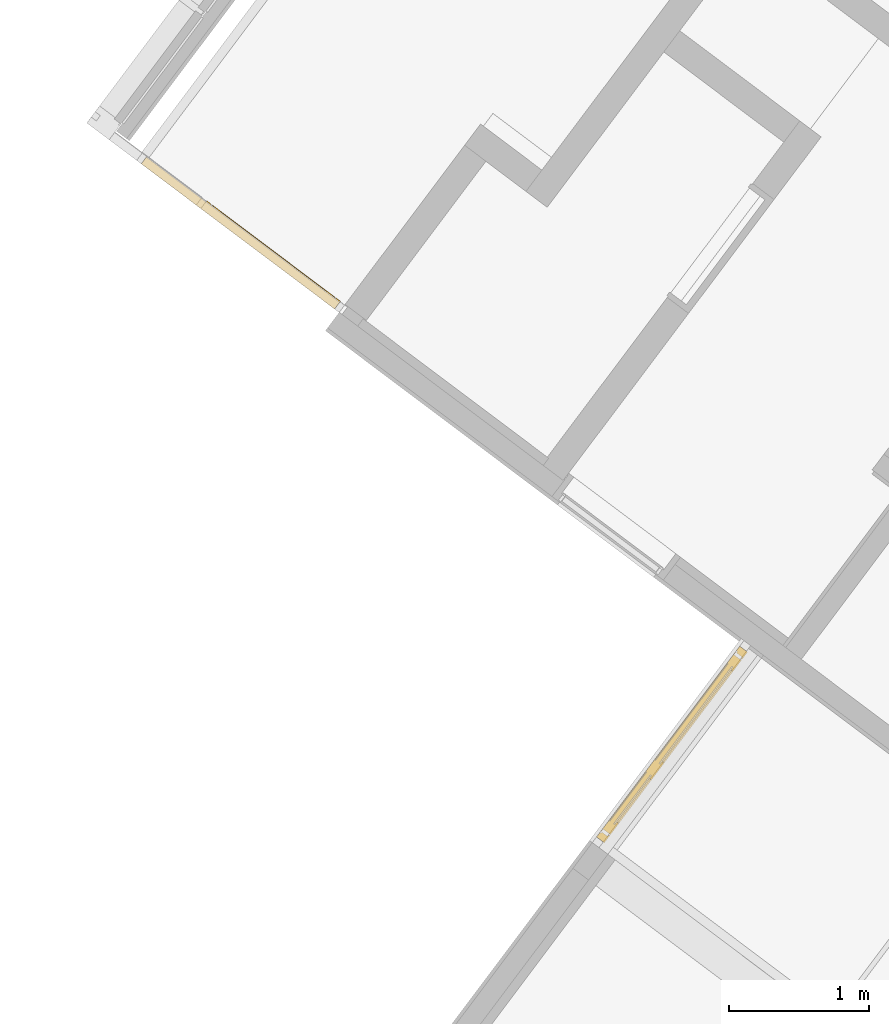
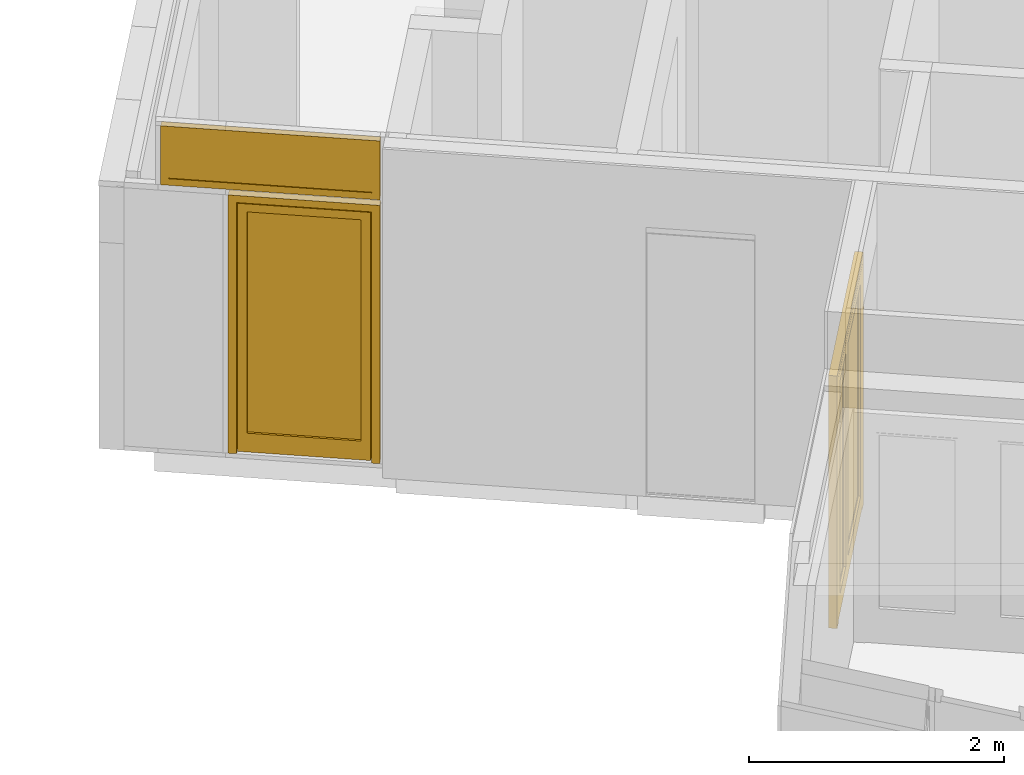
# One storey, part 223 of 243: 2 doors, 1 window, 2 elements without a shape of their own.
"""IFC2X3 building model written with IfcOpenShell, lengths in metres."""

from ifc_helpers import new_model, entity, si_unit, converted_unit, derived_unit, direction, frame, origin, place, context, subcontext, project, spatial, faceted_brep, source, transform, mapped, material, material_list, type_object, type_shapes, element, aggregate, save


model = new_model("IFC2X3")

# Units and contexts
model_context = context("Model", 3, precision=1e-05, world=origin(), true_north=direction((6.123031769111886e-17, 1.0)))
body_context = subcontext(model_context, "Body", "Model", "MODEL_VIEW")
ifc_project = project(units=[si_unit("LENGTHUNIT", "METRE"), si_unit("AREAUNIT", "SQUARE_METRE"), si_unit("VOLUMEUNIT", "CUBIC_METRE"), converted_unit("PLANEANGLEUNIT", "DEGREE", entity("IfcRatioMeasure", 0.017453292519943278), si_unit("PLANEANGLEUNIT", "RADIAN"), dimensions=[0, 0, 0, 0, 0, 0, 0]), si_unit("MASSUNIT", "GRAM", prefix="KILO"), derived_unit("MASSDENSITYUNIT", [(si_unit("MASSUNIT", "GRAM", prefix="KILO"), 1), (si_unit("LENGTHUNIT", "METRE"), -3)]), derived_unit("IONCONCENTRATIONUNIT", [(si_unit("MASSUNIT", "GRAM", prefix="KILO"), 1), (si_unit("LENGTHUNIT", "METRE"), -3)]), derived_unit("MOMENTOFINERTIAUNIT", [(si_unit("LENGTHUNIT", "METRE"), 4)]), si_unit("TIMEUNIT", "SECOND"), si_unit("FREQUENCYUNIT", "HERTZ"), si_unit("THERMODYNAMICTEMPERATUREUNIT", "DEGREE_CELSIUS"), derived_unit("THERMALTRANSMITTANCEUNIT", [(si_unit("MASSUNIT", "GRAM", prefix="KILO"), 1), (si_unit("THERMODYNAMICTEMPERATUREUNIT", "KELVIN"), -1), (si_unit("TIMEUNIT", "SECOND"), -3)]), derived_unit("THERMALCONDUCTANCEUNIT", [(si_unit("MASSUNIT", "GRAM", prefix="KILO"), 1), (si_unit("THERMODYNAMICTEMPERATUREUNIT", "KELVIN"), -1), (si_unit("TIMEUNIT", "SECOND"), -3), (si_unit("LENGTHUNIT", "METRE"), 1)]), derived_unit("VOLUMETRICFLOWRATEUNIT", [(si_unit("LENGTHUNIT", "METRE"), 3), (si_unit("TIMEUNIT", "SECOND"), -1)]), derived_unit("MASSFLOWRATEUNIT", [(si_unit("MASSUNIT", "GRAM", prefix="KILO"), 1), (si_unit("TIMEUNIT", "SECOND"), -1)]), derived_unit("ROTATIONALFREQUENCYUNIT", [(si_unit("TIMEUNIT", "SECOND"), -1)]), si_unit("ELECTRICCURRENTUNIT", "AMPERE"), si_unit("ELECTRICVOLTAGEUNIT", "VOLT"), si_unit("POWERUNIT", "WATT"), si_unit("FORCEUNIT", "NEWTON", prefix="KILO"), si_unit("ILLUMINANCEUNIT", "LUX"), si_unit("LUMINOUSFLUXUNIT", "LUMEN"), si_unit("LUMINOUSINTENSITYUNIT", "CANDELA"), derived_unit("USERDEFINED", [(si_unit("MASSUNIT", "GRAM", prefix="KILO"), -1), (si_unit("LENGTHUNIT", "METRE"), -2), (si_unit("TIMEUNIT", "SECOND"), 3), (si_unit("LUMINOUSFLUXUNIT", "LUMEN"), 1)]), derived_unit("USERDEFINED", [(si_unit("MASSUNIT", "GRAM", prefix="KILO"), 1), (si_unit("TIMEUNIT", "SECOND"), -3), (si_unit("LENGTHUNIT", "METRE"), 3), (si_unit("ELECTRICCURRENTUNIT", "AMPERE"), -2)]), derived_unit("SOUNDPOWERUNIT", [(si_unit("MASSUNIT", "GRAM", prefix="KILO"), 1), (si_unit("TIMEUNIT", "SECOND"), -3), (si_unit("LENGTHUNIT", "METRE"), 2)]), derived_unit("SOUNDPRESSUREUNIT", [(si_unit("MASSUNIT", "GRAM", prefix="KILO"), 1), (si_unit("LENGTHUNIT", "METRE"), -1), (si_unit("TIMEUNIT", "SECOND"), -2)]), derived_unit("LINEARVELOCITYUNIT", [(si_unit("LENGTHUNIT", "METRE"), 1), (si_unit("TIMEUNIT", "SECOND"), -1)]), si_unit("PRESSUREUNIT", "PASCAL"), derived_unit("USERDEFINED", [(si_unit("MASSUNIT", "GRAM", prefix="KILO"), 1), (si_unit("LENGTHUNIT", "METRE"), -2), (si_unit("TIMEUNIT", "SECOND"), -2)]), derived_unit("LINEARFORCEUNIT", [(si_unit("MASSUNIT", "GRAM", prefix="KILO"), 1), (si_unit("TIMEUNIT", "SECOND"), -2)]), derived_unit("PLANARFORCEUNIT", [(si_unit("MASSUNIT", "GRAM", prefix="KILO"), 1), (si_unit("LENGTHUNIT", "METRE"), -1), (si_unit("TIMEUNIT", "SECOND"), -2)]), derived_unit("SPECIFICHEATCAPACITYUNIT", [(si_unit("THERMODYNAMICTEMPERATUREUNIT", "KELVIN"), -1), (si_unit("LENGTHUNIT", "METRE"), 2), (si_unit("TIMEUNIT", "SECOND"), -2)]), derived_unit("HEATINGVALUEUNIT", [(si_unit("LENGTHUNIT", "METRE"), 2), (si_unit("TIMEUNIT", "SECOND"), -2)]), derived_unit("VAPORPERMEABILITYUNIT", [(si_unit("LENGTHUNIT", "METRE"), -1), (si_unit("TIMEUNIT", "SECOND"), 1)]), derived_unit("DYNAMICVISCOSITYUNIT", [(si_unit("MASSUNIT", "GRAM", prefix="KILO"), 1), (si_unit("TIMEUNIT", "SECOND"), -1), (si_unit("LENGTHUNIT", "METRE"), -1)]), derived_unit("THERMALEXPANSIONCOEFFICIENTUNIT", [(si_unit("THERMODYNAMICTEMPERATUREUNIT", "KELVIN"), -1)]), derived_unit("MODULUSOFELASTICITYUNIT", [(si_unit("MASSUNIT", "GRAM", prefix="KILO"), 1), (si_unit("LENGTHUNIT", "METRE"), -1), (si_unit("TIMEUNIT", "SECOND"), -2)]), derived_unit("ISOTHERMALMOISTURECAPACITYUNIT", [(si_unit("LENGTHUNIT", "METRE"), 3), (si_unit("MASSUNIT", "GRAM", prefix="KILO"), -1)]), derived_unit("MOISTUREDIFFUSIVITYUNIT", [(si_unit("TIMEUNIT", "SECOND"), -1), (si_unit("LENGTHUNIT", "METRE"), 2)])], contexts=[model_context])

# Site, building, storey
site_placement = place(None, frame((0.0, 0.0, 235.0), z_axis=(0.0, 0.0, 1.0), x_axis=(-0.7996477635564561, 0.6004693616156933, 0.0)))
site = spatial("IfcSite", under=ifc_project, at=site_placement, Name="Default", CompositionType="ELEMENT")
building_placement = place(site_placement, origin())
building = spatial("IfcBuilding", under=site, at=building_placement, CompositionType="ELEMENT")
storey_placement = place(building_placement, origin())
storey = spatial("IfcBuildingStorey", under=building, at=storey_placement, Name="P0- Escola", CompositionType="ELEMENT", Elevation=0.0)

# Curtain wall, door, window
curtain_wall_type_1 = type_object("IfcCurtainWallType", Name="Muro cortina:MC- EXT- AL1- Fa porxo", PredefinedType="NOTDEFINED")
curtain_wall_1_placement = place(storey_placement, origin())
curtain_wall_1 = element("IfcCurtainWall", 1, at=curtain_wall_1_placement, inside=storey, type_object=curtain_wall_type_1, Name="Muro cortina:MC- EXT- AL1- Fa porxo", ObjectType="Muro cortina:MC- EXT- AL1- Fa porxo")
ifc_material_1 = material(Name="_Alumini- T1- Perfil")
ifc_material_2 = material(Name="_Vidre")
ifc_material_list_1 = material_list([ifc_material_1, ifc_material_2])
door_style_1 = type_object("IfcDoorStyle", Name="MC- Alu- Conjunt porta- 70x60 cm- +15cm- obertura int:MC- Alu- Conjunt porta- 70x60 cm- +15cm- obertura int", ConstructionType="NOTDEFINED", OperationType="NOTDEFINED", ParameterTakesPrecedence=False, Sizeable=False, material=ifc_material_list_1)
shared_shape_1 = source(origin(), body_context, "Body", "Brep", [
    faceted_brep([(-0.5259499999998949, 0.0, 0.024000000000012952), (0.5259499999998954, 0.0, 0.024000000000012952), (0.5259499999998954, -0.06569970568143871, 0.024000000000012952), (-0.5259499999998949, -0.06569970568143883, 0.024000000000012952), (-0.5259499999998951, -0.06569970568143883, 2.397949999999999), (-0.5259499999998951, 0.0, 2.397949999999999), (0.5259499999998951, -0.06569970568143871, 2.397949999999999), (0.5499499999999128, -0.06569970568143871, 0.0), (-0.54994999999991, -0.06569970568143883, 0.0), (-0.5499499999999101, -0.06569970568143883, 2.421950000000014), (0.5499499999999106, -0.06569970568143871, 2.421950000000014), (0.5259499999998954, 0.0, 2.397949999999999), (-0.4493499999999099, 0.0, 2.3213500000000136), (-0.4493499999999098, 0.0, 0.20400000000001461), (0.4493499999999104, 0.0, 0.20400000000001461), (0.4493499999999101, 0.0, 2.3213500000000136), (0.5499499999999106, -0.0699997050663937, 2.421950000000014), (0.5499499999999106, -0.0699997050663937, 0.0), (-0.54994999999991, -0.06999970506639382, 0.0), (-0.5499499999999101, -0.06999970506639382, 2.421950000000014), (0.4493499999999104, -0.0699997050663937, 2.321350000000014), (0.4493499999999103, -0.0699997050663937, 0.20400000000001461), (-0.4493499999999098, -0.06999970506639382, 0.20400000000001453), (-0.4493499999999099, -0.06999970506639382, 2.3213500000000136), (0.4493499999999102, -0.06449970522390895, 2.3213500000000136), (0.4493499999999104, -0.06449970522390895, 0.20400000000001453), (-0.4493499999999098, -0.06449970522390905, 0.20400000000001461), (-0.4493499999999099, -0.06449970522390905, 2.3213500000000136), (0.4743500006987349, -0.06449970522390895, 2.3463500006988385), (0.4743500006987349, -0.06449970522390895, 0.17899999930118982), (-0.4743500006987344, -0.06449970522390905, 0.17899999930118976), (-0.4743500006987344, -0.06449970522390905, 2.346350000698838), (0.47435000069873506, -0.018999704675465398, 2.3463500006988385), (0.4743500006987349, -0.018999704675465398, 0.17899999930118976), (-0.4743500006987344, -0.0189997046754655, 0.17899999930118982), (-0.47435000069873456, -0.018999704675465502, 2.346350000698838), (0.4493499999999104, -0.018999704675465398, 2.321350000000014), (0.44934999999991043, -0.0189997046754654, 0.20400000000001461), (-0.4493499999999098, -0.0189997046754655, 0.20400000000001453), (-0.4493499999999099, -0.0189997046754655, 2.3213500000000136)], [[[0, 1, 2, 3]], [[4, 5, 0, 3]], [[2, 6, 4, 3], [7, 8, 9, 10]], [[2, 1, 11, 6]], [[11, 1, 0, 5], [12, 13, 14, 15]], [[16, 17, 7, 10]], [[8, 7, 17, 18]], [[18, 17, 16, 19], [20, 21, 22, 23]], [[24, 25, 21, 20]], [[21, 25, 26, 22]], [[27, 26, 25, 24], [28, 29, 30, 31]], [[32, 33, 29, 28]], [[33, 34, 30, 29]], [[35, 34, 33, 32], [36, 37, 38, 39]], [[15, 14, 37, 36]], [[37, 14, 13, 38]], [[9, 8, 18, 19]], [[23, 22, 26, 27]], [[31, 30, 34, 35]], [[39, 38, 13, 12]], [[19, 16, 10, 9]], [[27, 24, 20, 23]], [[35, 32, 28, 31]], [[12, 15, 36, 39]], [[4, 6, 11, 5]]], outer=[[True], [True], [False, True], [True], [True, False], [True], [True], [True, False], [True], [True], [False, True], [True], [True], [True, False], [True], [True], [True], [True], [True], [True], [True], [True], [True], [True], [True]]),
    faceted_brep([(0.4743500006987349, -0.06089980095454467, 0.17899999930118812), (-0.47435000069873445, -0.060899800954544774, 0.17899999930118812), (-0.4743500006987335, -0.02889980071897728, 0.17899999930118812), (0.4743500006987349, -0.028899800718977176, 0.17899999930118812), (0.4743500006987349, -0.06089980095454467, 2.3463500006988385), (0.4743500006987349, -0.028899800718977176, 2.3463500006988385), (-0.4743500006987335, -0.02889980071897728, 2.3463500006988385), (-0.47435000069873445, -0.060899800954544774, 2.3463500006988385)], [[[0, 1, 2, 3]], [[4, 0, 3, 5]], [[5, 3, 2, 6]], [[6, 2, 1, 7]], [[7, 1, 0, 4]], [[4, 5, 6, 7]]]),
    faceted_brep([(-0.5992499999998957, -0.06999999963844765, 0.0), (-0.5992499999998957, 0.0, 0.0), (-0.5319500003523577, 0.0, 0.0), (-0.5319500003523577, -0.008800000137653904, 0.0), (-0.5474499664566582, -0.008800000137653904, 0.0), (-0.5474499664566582, -0.059699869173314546, 0.0), (-0.5579499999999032, -0.059699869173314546, 0.0), (-0.5579499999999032, -0.06999999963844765, 0.0), (-0.5579499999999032, -0.06999999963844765, 2.4299500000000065), (0.5579499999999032, -0.06999999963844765, 2.4299500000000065), (0.5579499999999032, -0.06999999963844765, 0.0), (0.5992499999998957, -0.06999999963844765, 0.0), (0.5992499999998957, -0.06999999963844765, 2.471249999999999), (-0.5992499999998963, -0.06999999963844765, 2.4712500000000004), (-0.5579499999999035, -0.059699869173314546, 2.4299500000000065), (-0.5474499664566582, -0.059699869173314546, 2.4194499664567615), (0.5474499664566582, -0.059699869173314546, 2.4194499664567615), (0.5474499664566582, -0.059699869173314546, 0.0), (0.5579499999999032, -0.059699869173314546, 0.0), (0.5579499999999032, -0.059699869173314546, 2.4299500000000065), (-0.5474499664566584, -0.008800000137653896, 2.4194499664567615), (-0.5319500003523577, -0.008800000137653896, 2.403950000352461), (0.5319500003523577, -0.008800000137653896, 2.403950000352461), (0.5319500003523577, -0.008800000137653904, 0.0), (0.5474499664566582, -0.008800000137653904, 0.0), (0.5474499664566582, -0.008800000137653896, 2.4194499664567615), (-0.5319500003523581, 0.0, 2.403950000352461), (-0.5992499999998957, 0.0, 2.471249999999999), (0.5992499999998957, 0.0, 2.471249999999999), (0.5992499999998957, 0.0, 0.0), (0.5319500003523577, 0.0, 0.0), (0.5319500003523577, 0.0, 2.403950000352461)], [[[0, 1, 2, 3, 4, 5, 6, 7]], [[7, 8, 9, 10, 11, 12, 13, 0]], [[6, 14, 8, 7]], [[5, 15, 16, 17, 18, 19, 14, 6]], [[4, 20, 15, 5]], [[3, 21, 22, 23, 24, 25, 20, 4]], [[2, 26, 21, 3]], [[1, 27, 28, 29, 30, 31, 26, 2]], [[0, 13, 27, 1]], [[11, 10, 18, 17, 24, 23, 30, 29]], [[12, 11, 29, 28]], [[31, 30, 23, 22]], [[25, 24, 17, 16]], [[19, 18, 10, 9]], [[14, 19, 9, 8]], [[20, 25, 16, 15]], [[26, 31, 22, 21]], [[13, 12, 28, 27]]]),
])
type_shapes(door_style_1, [shared_shape_1])
door_1_placement = place(curtain_wall_1_placement, frame((22.465397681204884, -20.288941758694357, 0.02099999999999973)))
door_1 = element("IfcDoor", 2, at=door_1_placement, type_object=door_style_1, material=ifc_material_list_1, Name="MC- Alu- Conjunt porta- 70x60 cm- +15cm- obertura int:MC- Alu- Conjunt porta- 70x60 cm- +15cm- obertura int", ObjectType="MC- Alu- Conjunt porta- 70x60 cm- +15cm- obertura int:MC- Alu- Conjunt porta- 70x60 cm- +15cm- obertura int", OverallHeight=2.4712500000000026, OverallWidth=1.1984999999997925, context=body_context, shape_type="MappedRepresentation", body=[
    mapped(shared_shape_1, transform((0.0, 0.0, 0.0), scale=1.0)),
])
ifc_material_list_2 = material_list([ifc_material_2, ifc_material_1])
window_style = type_object("IfcWindowStyle", Name="MC- Alu- Conjunt vidre fix- 62x60 cm:MC- Alu- Conjunt vidre fix- 62x60 cm", ConstructionType="NOTDEFINED", OperationType="NOTDEFINED", ParameterTakesPrecedence=False, Sizeable=False, material=ifc_material_list_2)
shared_shape_2 = source(origin(), body_context, "Body", "Brep", [
    faceted_brep([(0.8171099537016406, -0.007600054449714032, 0.048806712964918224), (0.8171099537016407, -0.03160022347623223, 0.048806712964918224), (-0.8171099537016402, -0.03160022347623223, 0.048806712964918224), (-0.8171099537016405, -0.007600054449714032, 0.048806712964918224), (0.8171099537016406, -0.007600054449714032, 0.5147500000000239), (-0.8171099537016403, -0.007600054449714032, 0.5147500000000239), (-0.8171099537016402, -0.03160022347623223, 0.5147500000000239), (0.8171099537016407, -0.03160022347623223, 0.5147500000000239)], [[[0, 1, 2, 3]], [[4, 0, 3, 5]], [[5, 3, 2, 6]], [[6, 2, 1, 7]], [[7, 1, 0, 4]], [[4, 5, 6, 7]]]),
    faceted_brep([(0.8659166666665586, -0.05999999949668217, 0.563750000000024), (0.8659166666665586, -0.05999999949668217, 0.0), (0.8659166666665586, 0.0, 0.0), (0.8659166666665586, 0.0, 0.563750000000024), (-0.8659166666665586, 0.0, 0.563750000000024), (-0.8659166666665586, 0.0, 0.0), (0.8031098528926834, 0.0, 0.5009431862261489), (-0.8031098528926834, 0.0, 0.5009431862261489), (-0.8031098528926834, 0.0, 0.06280681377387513), (0.8031098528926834, 0.0, 0.06280681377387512), (-0.8659166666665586, -0.05999999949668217, 0.0), (-0.8659166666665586, -0.05999999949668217, 0.563750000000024), (-0.8031126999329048, -0.05999999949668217, 0.5009460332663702), (0.8031126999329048, -0.05999999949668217, 0.5009460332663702), (0.8031126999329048, -0.05999999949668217, 0.06280396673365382), (-0.8031126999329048, -0.05999999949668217, 0.06280396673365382), (0.8031126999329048, -0.03160022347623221, 0.5009460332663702), (0.8031126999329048, -0.03160022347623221, 0.06280396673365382), (-0.8031126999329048, -0.03160022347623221, 0.06280396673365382), (-0.8031126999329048, -0.03160022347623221, 0.5009460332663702), (-0.8171099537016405, -0.03160022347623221, 0.5149432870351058), (0.8171099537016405, -0.03160022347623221, 0.5149432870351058), (0.8171099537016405, -0.03160022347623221, 0.048806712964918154), (-0.8171099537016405, -0.03160022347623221, 0.04880671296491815), (0.8171099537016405, -0.007600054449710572, 0.5149432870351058), (0.8171099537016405, -0.007600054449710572, 0.04880671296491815), (-0.8171099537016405, -0.007600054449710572, 0.048806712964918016), (-0.8171099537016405, -0.007600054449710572, 0.5149432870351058), (-0.8031098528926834, -0.007600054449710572, 0.5009431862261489), (0.8031098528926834, -0.007600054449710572, 0.5009431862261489), (0.8031098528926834, -0.007600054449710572, 0.06280681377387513), (-0.8031098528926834, -0.007600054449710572, 0.06280681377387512)], [[[0, 1, 2, 3]], [[4, 3, 2, 5], [6, 7, 8, 9]], [[1, 10, 5, 2]], [[0, 11, 10, 1], [12, 13, 14, 15]], [[16, 17, 14, 13]], [[17, 18, 15, 14]], [[16, 19, 18, 17], [20, 21, 22, 23]], [[24, 25, 22, 21]], [[25, 26, 23, 22]], [[24, 27, 26, 25], [28, 29, 30, 31]], [[6, 9, 30, 29]], [[9, 8, 31, 30]], [[10, 11, 4, 5]], [[18, 19, 12, 15]], [[26, 27, 20, 23]], [[8, 7, 28, 31]], [[11, 0, 3, 4]], [[19, 16, 13, 12]], [[27, 24, 21, 20]], [[7, 6, 29, 28]]], outer=[[True], [True, False], [True], [True, False], [True], [True], [False, True], [True], [True], [True, False], [True], [True], [True], [True], [True], [True], [True], [True], [True], [True]]),
])
type_shapes(window_style, [shared_shape_2])
window_placement = place(curtain_wall_1_placement, frame((22.732064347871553, -20.288941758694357, 2.54525)))
window = element("IfcWindow", 3, at=window_placement, type_object=window_style, material=ifc_material_list_2, Name="MC- Alu- Conjunt vidre fix- 62x60 cm:MC- Alu- Conjunt vidre fix- 62x60 cm", ObjectType="MC- Alu- Conjunt vidre fix- 62x60 cm:MC- Alu- Conjunt vidre fix- 62x60 cm", OverallHeight=0.563750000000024, OverallWidth=1.7318333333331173, context=body_context, shape_type="MappedRepresentation", body=[
    mapped(shared_shape_2, transform((0.0, 0.0, 0.0), scale=1.0)),
])
aggregate(curtain_wall_1, [door_1, window])

# Curtain wall, door
curtain_wall_type_2 = type_object("IfcCurtainWallType", Name="Muro cortina:MC- EXT- AL3", PredefinedType="NOTDEFINED")
curtain_wall_2_placement = place(storey_placement, origin())
curtain_wall_2 = element("IfcCurtainWall", 4, at=curtain_wall_2_placement, inside=storey, type_object=curtain_wall_type_2, Name="Muro cortina:MC- EXT- AL3", ObjectType="Muro cortina:MC- EXT- AL3")
door_style_2 = type_object("IfcDoorStyle", Name="MC- Alu- Conjunt doble porta- 70x60 cm- +15cm- obertura ext- amplada variable:MC- Alu- Conjunt doble porta- 70x60 cm- +15cm- obertura ext- amplada variable", ConstructionType="NOTDEFINED", OperationType="DOUBLE_DOOR_SINGLE_SWING", ParameterTakesPrecedence=False, Sizeable=False, material=ifc_material_list_2)
shared_shape_3 = source(origin(), body_context, "Body", "Brep", [
    faceted_brep([(-0.26709999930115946, -0.009099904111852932, 0.17859999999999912), (-0.26709999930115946, -0.0410999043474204, 0.17859999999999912), (-0.7045999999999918, -0.0410999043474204, 0.17859999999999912), (-0.7045999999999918, -0.009099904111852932, 0.17859999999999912), (-0.26709999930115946, -0.009099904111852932, 2.2926000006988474), (-0.7045999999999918, -0.009099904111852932, 2.2926000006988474), (-0.7045999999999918, -0.0410999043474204, 2.2926000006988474), (-0.26709999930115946, -0.0410999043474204, 2.2926000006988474)], [[[0, 1, 2, 3]], [[4, 0, 3, 5]], [[5, 3, 2, 6]], [[6, 2, 1, 7]], [[7, 1, 0, 4]], [[4, 5, 6, 7]]]),
    faceted_brep([(-0.16390000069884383, -0.009099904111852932, 0.17859999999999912), (0.7046000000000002, -0.009099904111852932, 0.17859999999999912), (0.7045999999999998, -0.0410999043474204, 0.17859999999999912), (-0.16390000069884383, -0.0410999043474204, 0.17859999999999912), (-0.16390000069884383, -0.009099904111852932, 2.2926000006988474), (-0.16390000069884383, -0.0410999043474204, 2.2926000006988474), (0.7045999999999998, -0.0410999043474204, 2.2926000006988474), (0.7046000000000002, -0.009099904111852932, 2.2926000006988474)], [[[0, 1, 2, 3]], [[4, 0, 3, 5]], [[5, 3, 2, 6]], [[6, 2, 1, 7]], [[7, 1, 0, 4]], [[4, 5, 6, 7]]]),
    faceted_brep([(0.7811999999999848, -0.06999970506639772, 0.02400000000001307), (-0.2155000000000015, -0.06999970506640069, 0.02400000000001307), (-0.2155000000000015, -0.004299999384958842, 0.02400000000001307), (0.7811999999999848, -0.004299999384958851, 0.02400000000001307), (0.781199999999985, -0.004299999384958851, 2.344200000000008), (0.781199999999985, -0.06999970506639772, 2.344200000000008), (-0.2155000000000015, -0.004299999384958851, 2.344200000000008), (-0.2155000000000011, -0.004299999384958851, 0.0), (0.8051999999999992, -0.004299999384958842, 0.0), (0.8051999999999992, -0.004299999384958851, 2.3682000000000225), (-0.2155000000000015, -0.004299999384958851, 2.3682000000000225), (-0.2155000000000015, 0.0, 2.3682000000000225), (-0.2155000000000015, 0.0, 0.0), (-0.2155000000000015, -0.06999970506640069, 2.344200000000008), (0.6795999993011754, -0.06999970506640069, 2.242599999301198), (0.6795999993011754, -0.06999970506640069, 0.2036000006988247), (-0.1389000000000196, -0.06999970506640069, 0.20360000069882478), (-0.1389000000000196, -0.06999970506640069, 2.242599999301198), (-0.13890000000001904, -0.005499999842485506, 2.2425999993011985), (-0.13890000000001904, -0.005499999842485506, 0.20360000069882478), (-0.13890000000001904, 0.0, 0.20360000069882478), (-0.13890000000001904, 0.0, 2.2425999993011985), (0.6795999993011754, 0.0, 0.20360000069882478), (0.6795999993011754, 0.0, 2.2425999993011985), (0.8051999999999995, 0.0, 2.3682000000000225), (0.8051999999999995, 0.0, 0.0), (0.6795999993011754, -0.005499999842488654, 0.2036000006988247), (0.6795999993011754, -0.005499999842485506, 2.242599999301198), (-0.16390000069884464, -0.005499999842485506, 2.2676000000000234), (-0.16390000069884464, -0.005499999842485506, 0.17859999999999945), (0.7046000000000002, -0.005499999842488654, 0.17859999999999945), (0.7046000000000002, -0.005499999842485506, 2.267600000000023), (0.7046000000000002, -0.05100000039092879, 0.17859999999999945), (0.7046000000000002, -0.05100000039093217, 2.2676000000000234), (-0.16390000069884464, -0.05100000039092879, 0.17859999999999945), (-0.16390000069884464, -0.05100000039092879, 2.2676000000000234), (-0.1389000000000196, -0.05100000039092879, 2.2425999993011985), (-0.1389000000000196, -0.05100000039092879, 0.20360000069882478), (0.6795999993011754, -0.05100000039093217, 0.20360000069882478), (0.6795999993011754, -0.05100000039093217, 2.2425999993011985)], [[[0, 1, 2, 3]], [[4, 5, 0, 3]], [[6, 4, 3, 2, 7, 8, 9, 10]], [[10, 11, 12, 7, 2, 1, 13, 6]], [[13, 1, 0, 5], [14, 15, 16, 17]], [[18, 19, 20, 21]], [[21, 20, 22, 23], [24, 25, 12, 11]], [[26, 22, 20, 19]], [[27, 26, 19, 18], [28, 29, 30, 31]], [[23, 22, 26, 27]], [[31, 30, 32, 33]], [[34, 32, 30, 29]], [[35, 34, 29, 28]], [[33, 32, 34, 35], [36, 37, 38, 39]], [[39, 38, 15, 14]], [[15, 38, 37, 16]], [[17, 16, 37, 36]], [[8, 7, 12, 25]], [[9, 8, 25, 24]], [[4, 6, 13, 5]], [[10, 9, 24, 11]], [[27, 18, 21, 23]], [[33, 35, 28, 31]], [[14, 17, 36, 39]]], outer=[[True], [True], [True], [True], [True, False], [True], [False, True], [True], [False, True], [True], [True], [True], [True], [True, False], [True], [True], [True], [True], [True], [True], [True], [True], [True], [True]]),
    faceted_brep([(-0.7811999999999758, -0.004299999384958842, 0.024000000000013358), (-0.2155000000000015, -0.004299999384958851, 0.024000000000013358), (-0.2155000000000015, -0.06999970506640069, 0.024000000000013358), (-0.7811999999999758, -0.06999970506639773, 0.024000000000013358), (-0.7811999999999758, -0.06999970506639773, 2.344200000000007), (-0.7811999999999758, -0.004299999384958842, 2.344200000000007), (-0.2154999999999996, -0.06999970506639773, 2.344200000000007), (-0.29209999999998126, -0.06999970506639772, 2.2425999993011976), (-0.29209999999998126, -0.06999970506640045, 0.20360000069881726), (-0.6795999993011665, -0.06999970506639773, 0.2036000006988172), (-0.6795999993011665, -0.06999970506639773, 2.2425999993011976), (-0.21549999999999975, -0.004299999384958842, 2.3682000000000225), (-0.21549999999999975, -0.004299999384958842, 2.344200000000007), (-0.21549999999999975, -0.004299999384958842, 0.0), (-0.21549999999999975, 0.0, 0.0), (-0.21549999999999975, 0.0, 2.3682000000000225), (-0.8051999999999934, -0.004299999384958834, 0.0), (-0.8051999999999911, -0.004299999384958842, 2.3682000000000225), (-0.6795999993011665, 0.0, 2.2425999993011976), (-0.6795999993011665, 0.0, 0.20360000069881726), (-0.2920999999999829, 0.0, 0.20360000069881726), (-0.2920999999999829, 0.0, 2.242599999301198), (-0.8051999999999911, 0.0, 0.0), (-0.8051999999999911, 0.0, 2.3682000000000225), (-0.6795999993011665, -0.0054999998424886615, 2.2425999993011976), (-0.6795999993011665, -0.00549999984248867, 0.20360000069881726), (-0.2920999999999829, -0.00549999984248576, 0.2036000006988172), (-0.7045999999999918, -0.0054999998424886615, 2.2676000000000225), (-0.7045999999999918, -0.005499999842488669, 0.17859999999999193), (-0.2670999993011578, -0.005499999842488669, 0.17859999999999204), (-0.2670999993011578, -0.0054999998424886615, 2.2676000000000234), (-0.2920999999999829, -0.0054999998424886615, 2.2425999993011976), (-0.7045999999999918, -0.051000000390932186, 2.2676000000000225), (-0.7045999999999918, -0.051000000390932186, 0.17859999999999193), (-0.2670999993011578, -0.05100000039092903, 0.17859999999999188), (-0.6795999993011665, -0.051000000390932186, 2.2425999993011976), (-0.6795999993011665, -0.051000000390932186, 0.20360000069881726), (-0.29209999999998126, -0.051000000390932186, 0.20360000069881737), (-0.29209999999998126, -0.051000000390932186, 2.2425999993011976), (-0.2670999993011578, -0.051000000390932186, 2.2676000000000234)], [[[0, 1, 2, 3]], [[3, 4, 5, 0]], [[4, 3, 2, 6], [7, 8, 9, 10]], [[11, 12, 6, 2, 1, 13, 14, 15]], [[16, 13, 1, 0, 5, 12, 11, 17]], [[18, 19, 20, 21], [14, 22, 23, 15]], [[13, 16, 22, 14]], [[23, 22, 16, 17]], [[24, 25, 19, 18]], [[19, 25, 26, 20]], [[27, 28, 29, 30], [31, 26, 25, 24]], [[32, 33, 28, 27]], [[33, 34, 29, 28]], [[35, 36, 37, 38], [39, 34, 33, 32]], [[10, 9, 36, 35]], [[36, 9, 8, 37]], [[21, 20, 26, 31]], [[30, 29, 34, 39]], [[38, 37, 8, 7]], [[17, 11, 15, 23]], [[18, 21, 31, 24]], [[27, 30, 39, 32]], [[35, 38, 7, 10]], [[4, 6, 12, 5]]], outer=[[True], [True], [True, False], [True], [True], [False, True], [True], [True], [True], [True], [True, False], [True], [True], [False, True], [True], [True], [True], [True], [True], [True], [True], [True], [True], [True]]),
    faceted_brep([(-0.8544999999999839, 0.0, 0.0), (-0.8131999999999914, 0.0, 0.0), (-0.8131999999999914, -0.010300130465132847, 0.0), (-0.8026999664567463, -0.010300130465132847, 0.0), (-0.8026999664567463, -0.061199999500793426, 0.0), (-0.7872000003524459, -0.061199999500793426, 0.0), (-0.7872000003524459, -0.06999999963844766, 0.0), (-0.8544999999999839, -0.06999999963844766, 0.0), (-0.8544999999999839, -0.06999999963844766, 2.4175000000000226), (-0.8544999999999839, 0.0, 2.4175000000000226), (-0.7872000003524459, -0.06999999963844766, 2.3502000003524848), (0.7872000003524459, -0.06999999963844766, 2.3502000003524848), (0.7872000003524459, -0.06999999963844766, 0.0), (0.8544999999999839, -0.06999999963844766, 0.0), (0.8544999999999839, -0.06999999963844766, 2.4175000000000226), (-0.7872000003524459, -0.061199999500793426, 2.3502000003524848), (-0.8026999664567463, -0.061199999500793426, 2.365699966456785), (0.8026999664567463, -0.061199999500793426, 2.365699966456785), (0.8026999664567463, -0.061199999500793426, 0.0), (0.7872000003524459, -0.061199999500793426, 0.0), (0.7872000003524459, -0.061199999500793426, 2.3502000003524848), (-0.8026999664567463, -0.010300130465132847, 2.365699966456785), (-0.8131999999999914, -0.010300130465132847, 2.37620000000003), (0.8131999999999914, -0.010300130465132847, 2.37620000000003), (0.8131999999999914, -0.010300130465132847, 0.0), (0.8026999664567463, -0.010300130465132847, 0.0), (0.8026999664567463, -0.010300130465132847, 2.365699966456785), (-0.8131999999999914, 0.0, 2.37620000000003), (0.8544999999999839, 0.0, 2.4175000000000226), (0.8544999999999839, 0.0, 0.0), (0.8131999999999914, 0.0, 0.0), (0.8131999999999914, 0.0, 2.37620000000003)], [[[0, 1, 2, 3, 4, 5, 6, 7]], [[7, 8, 9, 0]], [[6, 10, 11, 12, 13, 14, 8, 7]], [[5, 15, 10, 6]], [[4, 16, 17, 18, 19, 20, 15, 5]], [[3, 21, 16, 4]], [[2, 22, 23, 24, 25, 26, 21, 3]], [[1, 27, 22, 2]], [[0, 9, 28, 29, 30, 31, 27, 1]], [[29, 13, 12, 19, 18, 25, 24, 30]], [[31, 30, 24, 23]], [[26, 25, 18, 17]], [[20, 19, 12, 11]], [[14, 13, 29, 28]], [[8, 14, 28, 9]], [[15, 20, 11, 10]], [[21, 26, 17, 16]], [[27, 31, 23, 22]]]),
])
type_shapes(door_style_2, [shared_shape_3])
door_2_placement = place(curtain_wall_2_placement, frame((18.09514768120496, -19.245691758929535, 0.085), z_axis=(0.0, 0.0, 1.0), x_axis=(0.0, -1.0, 0.0)))
door_2 = element("IfcDoor", 5, at=door_2_placement, type_object=door_style_2, material=ifc_material_list_2, Name="MC- Alu- Conjunt doble porta- 70x60 cm- +15cm- obertura ext- amplada variable:MC- Alu- Conjunt doble porta- 70x60 cm- +15cm- obertura ext- amplada variable", ObjectType="MC- Alu- Conjunt doble porta- 70x60 cm- +15cm- obertura ext- amplada variable:MC- Alu- Conjunt doble porta- 70x60 cm- +15cm- obertura ext- amplada variable", OverallHeight=2.4175000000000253, OverallWidth=1.7089999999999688, context=body_context, shape_type="MappedRepresentation", body=[
    mapped(shared_shape_3, transform((0.0, 0.0, 0.0), scale=1.0)),
])
aggregate(curtain_wall_2, [door_2])

save(model, "model.ifc")
